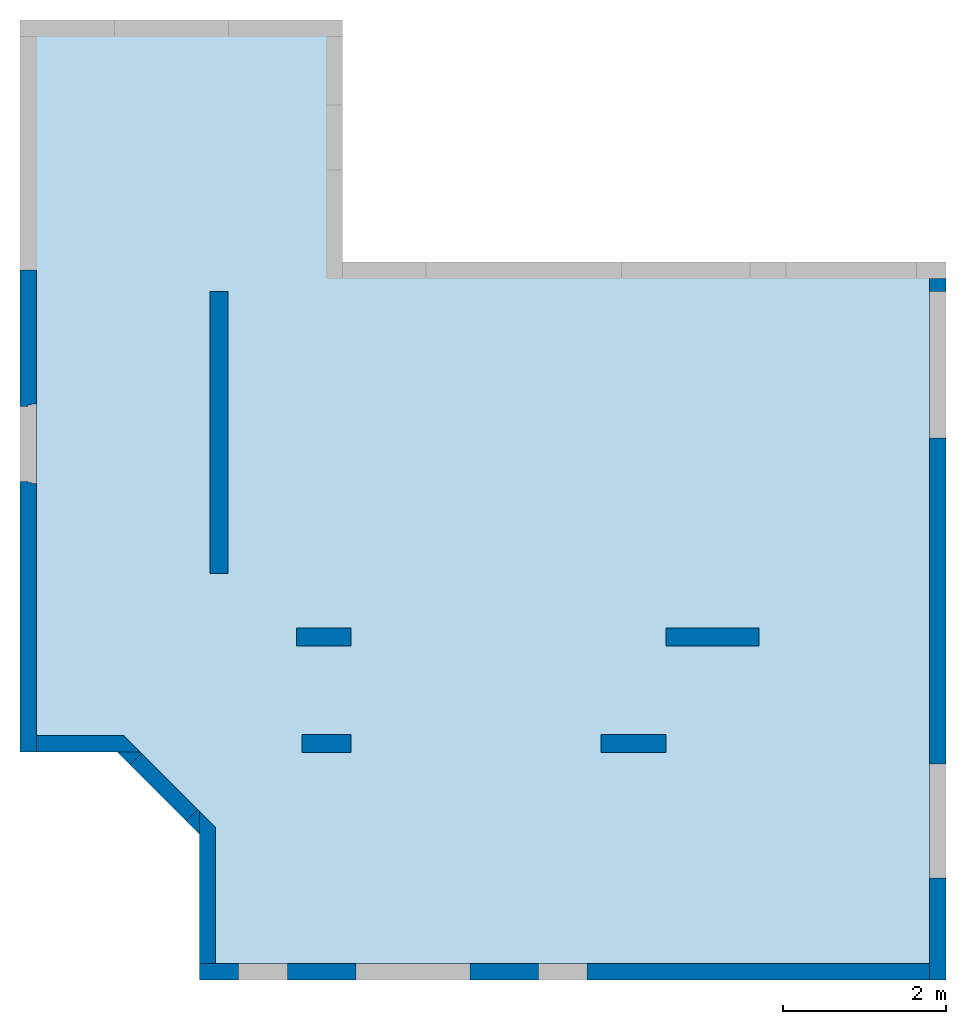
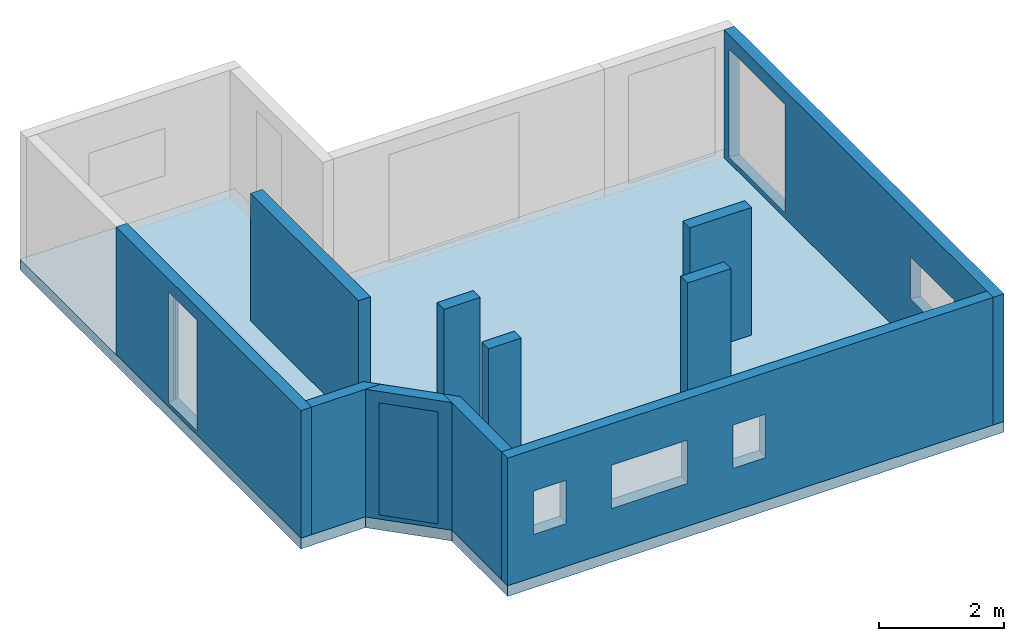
# One storey, part 1 of 3: 12 walls, 1 slab, 8 openings.
"""IFC2X3 building model written with IfcOpenShell, lengths in centimetres."""

from ifc_helpers import new_model, entity, si_unit, converted_unit, derived_unit, direction, frame, frame_2d, origin, place, context, subcontext, project, spatial, polyline, rectangle, outline, extrude, clip, bounded_halfspace, faceted_brep, material, layer, layer_set, layer_usage, type_object, element, save


model = new_model("IFC2X3")

# Units and contexts
model_context = context("Model", 3, precision=0.001, world=origin(), true_north=direction((6.123031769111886e-17, 1.0)))
body_context = subcontext(model_context, "Body", "Model", "MODEL_VIEW")
ifc_project = project(units=[si_unit("LENGTHUNIT", "METRE", prefix="CENTI"), si_unit("AREAUNIT", "SQUARE_METRE"), si_unit("VOLUMEUNIT", "CUBIC_METRE"), converted_unit("PLANEANGLEUNIT", "DEGREE", entity("IfcRatioMeasure", 0.017453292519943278), si_unit("PLANEANGLEUNIT", "RADIAN"), dimensions=[0, 0, 0, 0, 0, 0, 0]), si_unit("MASSUNIT", "GRAM", prefix="KILO"), derived_unit("MASSDENSITYUNIT", [(si_unit("MASSUNIT", "GRAM", prefix="KILO"), 1), (si_unit("LENGTHUNIT", "METRE"), -3)]), derived_unit("MOMENTOFINERTIAUNIT", [(si_unit("LENGTHUNIT", "METRE"), 4)]), si_unit("TIMEUNIT", "SECOND"), si_unit("FREQUENCYUNIT", "HERTZ"), si_unit("THERMODYNAMICTEMPERATUREUNIT", "DEGREE_CELSIUS"), derived_unit("THERMALTRANSMITTANCEUNIT", [(si_unit("MASSUNIT", "GRAM", prefix="KILO"), 1), (si_unit("THERMODYNAMICTEMPERATUREUNIT", "KELVIN"), -1), (si_unit("TIMEUNIT", "SECOND"), -3)]), derived_unit("VOLUMETRICFLOWRATEUNIT", [(si_unit("LENGTHUNIT", "METRE"), 3), (si_unit("TIMEUNIT", "SECOND"), -1)]), derived_unit("MASSFLOWRATEUNIT", [(si_unit("MASSUNIT", "GRAM", prefix="KILO"), 1), (si_unit("TIMEUNIT", "SECOND"), -1)]), derived_unit("ROTATIONALFREQUENCYUNIT", [(si_unit("TIMEUNIT", "SECOND"), -1)]), si_unit("ELECTRICCURRENTUNIT", "AMPERE"), si_unit("ELECTRICVOLTAGEUNIT", "VOLT"), si_unit("POWERUNIT", "WATT"), si_unit("FORCEUNIT", "NEWTON", prefix="KILO"), si_unit("ILLUMINANCEUNIT", "LUX"), si_unit("LUMINOUSFLUXUNIT", "LUMEN"), si_unit("LUMINOUSINTENSITYUNIT", "CANDELA"), derived_unit("USERDEFINED", [(si_unit("MASSUNIT", "GRAM", prefix="KILO"), -1), (si_unit("LENGTHUNIT", "METRE"), -2), (si_unit("TIMEUNIT", "SECOND"), 3), (si_unit("LUMINOUSFLUXUNIT", "LUMEN"), 1)]), derived_unit("SOUNDPOWERUNIT", [(si_unit("MASSUNIT", "GRAM", prefix="KILO"), 1), (si_unit("LENGTHUNIT", "METRE"), 2), (si_unit("TIMEUNIT", "SECOND"), -3)]), derived_unit("SOUNDPRESSUREUNIT", [(si_unit("MASSUNIT", "GRAM", prefix="KILO"), 1), (si_unit("LENGTHUNIT", "METRE"), -1), (si_unit("TIMEUNIT", "SECOND"), -2)]), derived_unit("LINEARVELOCITYUNIT", [(si_unit("LENGTHUNIT", "METRE"), 1), (si_unit("TIMEUNIT", "SECOND"), -1)]), si_unit("PRESSUREUNIT", "PASCAL"), derived_unit("USERDEFINED", [(si_unit("LENGTHUNIT", "METRE"), -2), (si_unit("MASSUNIT", "GRAM", prefix="KILO"), 1), (si_unit("TIMEUNIT", "SECOND"), -2)]), derived_unit("LINEARFORCEUNIT", [(si_unit("MASSUNIT", "GRAM", prefix="KILO"), 1), (si_unit("LENGTHUNIT", "METRE"), 1), (si_unit("TIMEUNIT", "SECOND"), -2), (si_unit("LENGTHUNIT", "METRE"), -1)]), derived_unit("PLANARFORCEUNIT", [(si_unit("MASSUNIT", "GRAM", prefix="KILO"), 1), (si_unit("LENGTHUNIT", "METRE"), 1), (si_unit("TIMEUNIT", "SECOND"), -2), (si_unit("LENGTHUNIT", "METRE"), -2)])], contexts=[model_context])

# Site, building, storey
site_placement = place(None, frame((1412.1772603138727, -701.9923171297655, 0.0)))
site = spatial("IfcSite", under=ifc_project, at=site_placement, Name="Default", CompositionType="ELEMENT")
building_placement = place(site_placement, origin())
building = spatial("IfcBuilding", under=site, at=building_placement, CompositionType="ELEMENT")
storey_placement = place(building_placement, frame((0.0, 0.0, -8.0)))
storey = spatial("IfcBuildingStorey", under=building, at=storey_placement, Name="-0.08_Dessus plancher", CompositionType="ELEMENT", Elevation=-8.000000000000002)

# Slab
ifc_material_1 = material(Name="Maçonnerie - Béton")
ifc_layer_1 = layer(ifc_material_1, 21.0)
ifc_layer_set_1 = layer_set([ifc_layer_1], Name="Sol:Plancher 4+12+5")
ifc_layer_usage_1 = layer_usage(ifc_layer_set_1, "AXIS3", "POSITIVE", 0.0)
slab_type = type_object("IfcSlabType", Name="Sol:Plancher 4+12+5", PredefinedType="FLOOR", material=ifc_layer_set_1)
slab_placement = place(storey_placement, origin())
element("IfcSlab", 1, at=slab_placement, inside=storey, type_object=slab_type, material=ifc_layer_usage_1, Name="Sol:Plancher 4+12+5", ObjectType="Sol:Plancher 4+12+5", PredefinedType="FLOOR", context=body_context, shape_type="SweptSolid", body=[
    extrude(outline(polyline([(-259.64760301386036, -402.53649190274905), (638.3523969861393, -402.53649190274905), (638.3523969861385, -6.536491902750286), (341.3523969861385, -6.5364919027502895), (341.35239698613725, 733.46350809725), (-539.6476030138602, 733.4635080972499), (-539.6476030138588, -182.53649190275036), (-360.8191758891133, -182.5364919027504), (-259.64760301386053, -283.70806477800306), (-259.64760301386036, -402.53649190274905)])), frame((-1385.640768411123, 380.639920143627, 0.0), z_axis=(0.0, 0.0, -1.0), x_axis=(0.0, 1.0, 0.0)), (0.0, 0.0, 1.0), 21.0),
])

# Wall, openings
ifc_layer_2 = layer(ifc_material_1, 20.0)
ifc_layer_set_2 = layer_set([ifc_layer_2], Name="Mur de base:Mur 20")
ifc_layer_usage_2 = layer_usage(ifc_layer_set_2, "AXIS2", "NEGATIVE", 10.0)
wall_type_1 = type_object("IfcWallType", Name="Mur de base:Mur 20", PredefinedType="STANDARD", material=ifc_layer_set_2)
wall_1_placement = place(storey_placement, frame((-662.1772603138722, 701.9923171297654, 0.0), z_axis=(0.0, 0.0, 1.0), x_axis=(0.0, -1.0, 0.0)))
wall_1 = element("IfcWallStandardCase", 2, at=wall_1_placement, inside=storey, type_object=wall_type_1, material=ifc_layer_usage_2, Name="Mur de base:Mur 20", ObjectType="Mur de base:Mur 20", context=body_context, shape_type="Clipping", body=[
    clip(extrude(rectangle(XDim=860.9999999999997, YDim=20.0, at=frame_2d((430.49999999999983, -1.9539925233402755e-14), x_axis=(-1.0, 0.0))), origin(), (0.0, 0.0, 1.0), 249.00000000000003), bounded_halfspace(frame((0.0, -10.0, 249.0), z_axis=(0.0, 0.0, -1.0), x_axis=(1.0, 0.0, 0.0)), True, frame((0.0, -10.0, 249.0)), polyline([(0.0, 0.0), (25633.67999999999, 0.0), (26243.27999999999, 0.0), (26243.279999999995, 609.5999999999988), (0.0, 609.6), (0.0, 0.0)]))),
])
opening_1_placement = place(wall_1_placement, frame((201.0, -68.0, 8.0)))
element("IfcOpeningElement", 3, at=opening_1_placement, cuts=wall_1, Name="Mur de base:Mur 20", ObjectType="Opening", context=body_context, shape_type="Brep", body=[
    faceted_brep([(-185.0, 50.0, 3.500000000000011), (-185.0, 52.0, 3.499999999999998), (-185.0, 52.0, 213.50000000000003), (-185.0, 100.0, 213.50000000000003), (-185.0, 100.0, 0.0), (-185.0, 83.30027558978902, 0.0), (-5.0, 0.0, 3.500000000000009), (-5.0, 42.0, 3.500000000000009), (-5.0, 42.0, 213.50000000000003), (-5.0, 0.0, 213.50000000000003), (-185.0, 0.0, 3.500000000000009), (-185.0, 42.0, 3.500000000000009), (-190.0, 42.0, 3.500000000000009), (-190.0, 47.0, 3.500000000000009), (-186.0, 47.0, 3.500000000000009), (-186.0, 52.0, 3.500000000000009), (-5.0, 50.0, 3.4999999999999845), (-5.0, 52.0, 3.500000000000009), (-4.0, 52.0, 3.500000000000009), (-4.0, 47.0, 3.500000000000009), (0.0, 47.0, 3.500000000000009), (0.0, 42.0, 3.500000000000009), (-185.0, 0.0, 213.50000000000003), (-5.0, 52.0, 213.50000000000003), (-5.0, 100.0, 213.5), (-5.0, 100.0, 0.0), (-5.0, 83.30027558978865, 0.0), (-190.0, 42.0, 218.5), (-190.0, 47.0, 218.5), (0.0, 47.0, 218.5), (-4.0, 47.0, 214.50000000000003), (-186.0, 47.0, 214.50000000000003), (-186.0, 52.0, 214.50000000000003), (-4.0, 52.0, 214.50000000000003), (-185.0, 42.0, 213.5), (0.0, 42.0, 218.49999999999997)], [[[0, 1, 2, 3, 4, 5]], [[6, 7, 8, 9]], [[10, 11, 12, 13, 14, 15, 1, 0, 16, 17, 18, 19, 20, 21, 7, 6]], [[10, 6, 9, 22]], [[3, 2, 23, 24]], [[3, 24, 25, 4]], [[4, 25, 26, 5]], [[5, 26, 16, 0]], [[12, 27, 28, 13]], [[13, 28, 29, 20, 19, 30, 31, 14]], [[14, 31, 32, 15]], [[15, 32, 33, 18, 17, 23, 2, 1]], [[11, 34, 8, 7, 21, 35, 27, 12]], [[27, 35, 29, 28]], [[30, 33, 32, 31]], [[29, 35, 21, 20]], [[19, 18, 33, 30]], [[9, 8, 34, 22]], [[24, 23, 17, 16, 26, 25]], [[22, 34, 11, 10]]]),
])
opening_2_placement = place(wall_1_placement, frame((741.0, -68.0, 81.24478823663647)))
element("IfcOpeningElement", 4, at=opening_2_placement, cuts=wall_1, Name="Mur de base:Mur 20", ObjectType="Opening", context=body_context, shape_type="Brep", body=[
    faceted_brep([(-145.0, 50.0, 6.755211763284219), (-145.0, 52.0, 6.755211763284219), (-145.0, 52.0, 86.75521176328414), (-145.0, 100.0, 86.75521176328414), (-145.0, 100.0, 0.0), (-145.0, 50.0, 5.255211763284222), (-5.0, 0.0, 6.755211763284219), (-5.0, 42.0, 6.755211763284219), (-5.0, 42.0, 86.75521176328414), (-5.0, 0.0, 86.75521176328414), (-145.0, 0.0, 6.755211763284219), (-145.0, 42.0, 6.755211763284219), (-150.0, 42.0, 6.755211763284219), (-150.0, 49.0, 6.755211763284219), (-146.0, 49.0, 6.755211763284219), (-146.0, 52.0, 6.755211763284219), (-5.0, 50.0, 6.755211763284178), (-5.0, 52.0, 6.755211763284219), (-4.0, 52.0, 6.755211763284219), (-4.0, 49.0, 6.755211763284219), (0.0, 49.0, 6.755211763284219), (0.0, 42.0, 6.755211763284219), (-145.0, 0.0, 86.75521176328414), (-5.0, 52.0, 86.75521176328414), (-5.0, 100.0, 86.75521176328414), (-5.0, 100.0, 0.0), (-5.0, 50.0, 5.255211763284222), (-150.0, 42.0, 91.75521176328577), (-150.0, 49.0, 91.75521176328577), (0.0, 49.0, 91.75521176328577), (-4.0, 49.0, 87.75521176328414), (-146.0, 49.0, 87.75521176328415), (-146.0, 52.0, 87.75521176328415), (-4.0, 52.0, 87.75521176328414), (-145.0, 42.0, 86.75521176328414), (0.0, 42.0, 91.75521176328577)], [[[0, 1, 2, 3, 4, 5]], [[6, 7, 8, 9]], [[10, 11, 12, 13, 14, 15, 1, 0, 16, 17, 18, 19, 20, 21, 7, 6]], [[10, 6, 9, 22]], [[3, 2, 23, 24]], [[3, 24, 25, 4]], [[4, 25, 26, 5]], [[5, 26, 16, 0]], [[12, 27, 28, 13]], [[13, 28, 29, 20, 19, 30, 31, 14]], [[14, 31, 32, 15]], [[15, 32, 33, 18, 17, 23, 2, 1]], [[11, 34, 8, 7, 21, 35, 27, 12]], [[27, 35, 29, 28]], [[30, 33, 32, 31]], [[29, 35, 21, 20]], [[19, 18, 33, 30]], [[9, 8, 34, 22]], [[24, 23, 17, 16, 26, 25]], [[22, 34, 11, 10]]]),
])

ifc_layer_usage_3 = layer_usage(ifc_layer_set_2, "AXIS2", "NEGATIVE", 10.0)
wall_2_placement = place(storey_placement, frame((-672.1772603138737, -149.00768287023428, 0.0), z_axis=(0.0, 0.0, 1.0), x_axis=(-1.0, 0.0, 0.0)))
wall_2 = element("IfcWallStandardCase", 5, at=wall_2_placement, inside=storey, type_object=wall_type_1, material=ifc_layer_usage_3, Name="Mur de base:Mur 20", ObjectType="Mur de base:Mur 20", context=body_context, shape_type="Clipping", body=[
    clip(extrude(rectangle(XDim=896.0000000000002, YDim=20.0, at=frame_2d((448.0000000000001, 1.5987211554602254e-14), x_axis=(-1.0, 0.0))), origin(), (0.0, 0.0, 1.0), 249.00000000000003), bounded_halfspace(frame((0.0, -10.0, 249.0), z_axis=(0.0, 0.0, -1.0), x_axis=(0.0, 1.0, 0.0)), True, frame((0.0, -10.0, 249.0)), polyline([(0.0, 0.0), (26700.48, 0.0), (27310.08000000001, 0.0), (27310.080000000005, 609.6), (0.0, 609.6), (0.0, 0.0)]))),
])
opening_3_placement = place(wall_2_placement, frame((485.0, 32.0, 81.24478823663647)))
element("IfcOpeningElement", 6, at=opening_3_placement, cuts=wall_2, Name="Mur de base:Mur 20", ObjectType="Opening", context=body_context, shape_type="Brep", body=[
    faceted_brep([(-65.0, -50.0, 6.755211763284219), (-65.0, -48.0, 6.755211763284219), (-65.0, -48.0, 86.75521176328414), (-65.0, 0.0, 86.75521176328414), (-65.0, 0.0, 0.0), (-65.0, -50.0, 5.255211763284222), (-5.0, -100.0, 6.755211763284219), (-5.0, -58.0, 6.755211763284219), (-5.0, -58.0, 86.75521176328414), (-5.0, -100.0, 86.75521176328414), (-65.0, -100.0, 6.755211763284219), (-65.0, -58.0, 6.755211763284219), (-70.0, -58.0, 6.755211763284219), (-70.0, -53.0, 6.755211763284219), (-66.0, -53.0, 6.755211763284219), (-66.0, -48.0, 6.755211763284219), (-5.0, -50.0, 6.755211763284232), (-5.0, -48.0, 6.755211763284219), (-4.0, -48.0, 6.755211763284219), (-4.0, -53.0, 6.755211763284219), (0.0, -53.0, 6.755211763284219), (0.0, -58.0, 6.755211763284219), (-65.0, -100.0, 86.75521176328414), (-5.0, -48.0, 86.75521176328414), (-5.0, 0.0, 86.75521176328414), (-5.0, 0.0, 0.0), (-5.0, -50.0, 5.255211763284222), (-70.0, -58.0, 91.75521176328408), (-70.0, -53.0, 91.75521176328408), (0.0, -53.0, 91.75521176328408), (-4.0, -53.0, 87.75521176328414), (-66.0, -53.0, 87.75521176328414), (-66.0, -48.0, 87.75521176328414), (-4.0, -48.0, 87.75521176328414), (-65.0, -58.0, 86.75521176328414), (0.0, -58.0, 91.75521176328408)], [[[0, 1, 2, 3, 4, 5]], [[6, 7, 8, 9]], [[10, 11, 12, 13, 14, 15, 1, 0, 16, 17, 18, 19, 20, 21, 7, 6]], [[10, 6, 9, 22]], [[3, 2, 23, 24]], [[3, 24, 25, 4]], [[4, 25, 26, 5]], [[5, 26, 16, 0]], [[12, 27, 28, 13]], [[13, 28, 29, 20, 19, 30, 31, 14]], [[14, 31, 32, 15]], [[15, 32, 33, 18, 17, 23, 2, 1]], [[11, 34, 8, 7, 21, 35, 27, 12]], [[27, 35, 29, 28]], [[30, 33, 32, 31]], [[29, 35, 21, 20]], [[19, 18, 33, 30]], [[9, 8, 34, 22]], [[24, 23, 17, 16, 26, 25]], [[22, 34, 11, 10]]]),
])
opening_4_placement = place(wall_2_placement, frame((853.0, 32.0, 81.24478823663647)))
element("IfcOpeningElement", 7, at=opening_4_placement, cuts=wall_2, Name="Mur de base:Mur 20", ObjectType="Opening", context=body_context, shape_type="Brep", body=[
    faceted_brep([(-65.0, -50.0, 6.755211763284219), (-65.0, -48.0, 6.755211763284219), (-65.0, -48.0, 86.75521176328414), (-65.0, 0.0, 86.75521176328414), (-65.0, 0.0, 0.0), (-65.0, -50.0, 5.255211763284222), (-5.0, -100.0, 6.755211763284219), (-5.0, -58.0, 6.755211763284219), (-5.0, -58.0, 86.75521176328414), (-5.0, -100.0, 86.75521176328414), (-65.0, -100.0, 6.755211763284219), (-65.0, -58.0, 6.755211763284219), (-70.0, -58.0, 6.755211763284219), (-70.0, -53.0, 6.755211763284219), (-66.0, -53.0, 6.755211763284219), (-66.0, -48.0, 6.755211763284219), (-5.0, -50.0, 6.755211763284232), (-5.0, -48.0, 6.755211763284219), (-4.0, -48.0, 6.755211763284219), (-4.0, -53.0, 6.755211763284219), (0.0, -53.0, 6.755211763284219), (0.0, -58.0, 6.755211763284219), (-65.0, -100.0, 86.75521176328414), (-5.0, -48.0, 86.75521176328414), (-5.0, 0.0, 86.75521176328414), (-5.0, 0.0, 0.0), (-5.0, -50.0, 5.255211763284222), (-70.0, -58.0, 91.75521176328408), (-70.0, -53.0, 91.75521176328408), (0.0, -53.0, 91.75521176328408), (-4.0, -53.0, 87.75521176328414), (-66.0, -53.0, 87.75521176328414), (-66.0, -48.0, 87.75521176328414), (-4.0, -48.0, 87.75521176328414), (-65.0, -58.0, 86.75521176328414), (0.0, -58.0, 91.75521176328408)], [[[0, 1, 2, 3, 4, 5]], [[6, 7, 8, 9]], [[10, 11, 12, 13, 14, 15, 1, 0, 16, 17, 18, 19, 20, 21, 7, 6]], [[10, 6, 9, 22]], [[3, 2, 23, 24]], [[3, 24, 25, 4]], [[4, 25, 26, 5]], [[5, 26, 16, 0]], [[12, 27, 28, 13]], [[13, 28, 29, 20, 19, 30, 31, 14]], [[14, 31, 32, 15]], [[15, 32, 33, 18, 17, 23, 2, 1]], [[11, 34, 8, 7, 21, 35, 27, 12]], [[27, 35, 29, 28]], [[30, 33, 32, 31]], [[29, 35, 21, 20]], [[19, 18, 33, 30]], [[9, 8, 34, 22]], [[24, 23, 17, 16, 26, 25]], [[22, 34, 11, 10]]]),
])
opening_5_placement = place(wall_2_placement, frame((709.0, 32.0, 81.24478823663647)))
element("IfcOpeningElement", 8, at=opening_5_placement, cuts=wall_2, Name="Mur de base:Mur 20", ObjectType="Opening", context=body_context, shape_type="Brep", body=[
    faceted_brep([(-145.0, -50.0, 6.755211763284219), (-145.0, -48.0, 6.755211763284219), (-145.0, -48.0, 86.75521176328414), (-145.0, 0.0, 86.75521176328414), (-145.0, 0.0, 0.0), (-145.0, -50.0, 5.255211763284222), (-5.0, -100.0, 6.755211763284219), (-5.0, -58.0, 6.755211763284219), (-5.0, -58.0, 86.75521176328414), (-5.0, -100.0, 86.75521176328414), (-145.0, -100.0, 6.755211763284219), (-145.0, -58.0, 6.755211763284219), (-150.0, -58.0, 6.755211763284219), (-150.0, -51.0, 6.755211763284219), (-146.0, -51.0, 6.755211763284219), (-146.0, -48.0, 6.755211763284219), (-5.0, -50.0, 6.755211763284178), (-5.0, -48.0, 6.755211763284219), (-4.0, -48.0, 6.755211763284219), (-4.0, -51.0, 6.755211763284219), (0.0, -51.0, 6.755211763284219), (0.0, -58.0, 6.755211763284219), (-145.0, -100.0, 86.75521176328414), (-5.0, -48.0, 86.75521176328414), (-5.0, 0.0, 86.75521176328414), (-5.0, 0.0, 0.0), (-5.0, -50.0, 5.255211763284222), (-150.0, -58.0, 91.75521176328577), (-150.0, -51.0, 91.75521176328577), (0.0, -51.0, 91.75521176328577), (-4.0, -51.0, 87.75521176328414), (-146.0, -51.0, 87.75521176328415), (-146.0, -48.0, 87.75521176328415), (-4.0, -48.0, 87.75521176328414), (-145.0, -58.0, 86.75521176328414), (0.0, -58.0, 91.75521176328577)], [[[0, 1, 2, 3, 4, 5]], [[6, 7, 8, 9]], [[10, 11, 12, 13, 14, 15, 1, 0, 16, 17, 18, 19, 20, 21, 7, 6]], [[10, 6, 9, 22]], [[3, 2, 23, 24]], [[3, 24, 25, 4]], [[4, 25, 26, 5]], [[5, 26, 16, 0]], [[12, 27, 28, 13]], [[13, 28, 29, 20, 19, 30, 31, 14]], [[14, 31, 32, 15]], [[15, 32, 33, 18, 17, 23, 2, 1]], [[11, 34, 8, 7, 21, 35, 27, 12]], [[27, 35, 29, 28]], [[30, 33, 32, 31]], [[29, 35, 21, 20]], [[19, 18, 33, 30]], [[9, 8, 34, 22]], [[24, 23, 17, 16, 26, 25]], [[22, 34, 11, 10]]]),
])

# Wall, opening
ifc_layer_usage_4 = layer_usage(ifc_layer_set_2, "AXIS2", "NEGATIVE", 10.0)
wall_3_placement = place(storey_placement, frame((-1558.1772603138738, -139.0076828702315, 0.0), z_axis=(0.0, 0.0, 1.0), x_axis=(0.0, 1.0, 0.0)))
wall_3 = element("IfcWallStandardCase", 9, at=wall_3_placement, inside=storey, type_object=wall_type_1, material=ifc_layer_usage_4, Name="Mur de base:Mur 20", ObjectType="Mur de base:Mur 20", context=body_context, shape_type="Clipping", body=[
    clip(extrude(outline(polyline([(167.11269837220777, -10.0), (187.1126983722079, 10.0), (158.8284271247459, 10.0), (0.0, 10.0), (0.0, -10.0), (16.0, -10.0), (167.11269837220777, -10.0)])), origin(), (0.0, 0.0, 1.0), 249.00000000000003), bounded_halfspace(frame((0.0, -10.0, 249.0), z_axis=(0.0, 0.0, -1.0), x_axis=(-1.0, 0.0, 0.0)), True, frame((0.0, -10.0, 249.0)), polyline([(0.0, 0.0), (5093.595046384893, 0.0), (5703.195046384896, 609.6), (4841.090458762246, 609.6), (0.0, 609.6), (0.0, 0.0)]))),
])
opening_6_placement = place(wall_3_placement, origin())
element("IfcOpeningElement", 10, at=opening_6_placement, cuts=wall_3, Name="Mur de base:Mur 20", ObjectType="Opening", context=body_context, shape_type="SweptSolid", body=[
    extrude(rectangle(XDim=218.8099999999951, YDim=97.62000000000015, at=frame_2d((1.2079226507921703e-13, 0.0), x_axis=(0.0, 1.0))), frame((223.70939812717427, 46.596699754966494, 117.4049999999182), z_axis=(-0.7071067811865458, 0.7071067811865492, 0.0), x_axis=(-0.7071067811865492, -0.7071067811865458, 0.0)), (0.0, 0.0, 1.0), 20.000000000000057),
])

# Wall
ifc_layer_usage_5 = layer_usage(ifc_layer_set_2, "AXIS2", "POSITIVE", -10.0)
wall_4_placement = place(storey_placement, frame((-1768.1772603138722, 130.99231712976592, 0.0)))
element("IfcWallStandardCase", 11, at=wall_4_placement, inside=storey, type_object=wall_type_1, material=ifc_layer_usage_5, Name="Mur de base:Mur 20", ObjectType="Mur de base:Mur 20", context=body_context, shape_type="Clipping", body=[
    clip(extrude(outline(polyline([(127.11269837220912, -10.0), (107.11269837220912, 10.0), (0.0, 10.0), (0.0, -10.0), (98.8284271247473, -10.0), (127.11269837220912, -10.0)])), origin(), (0.0, 0.0, 1.0), 249.00000000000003), bounded_halfspace(frame((0.0, -10.0, 249.0), z_axis=(0.0, 0.0, -1.0), x_axis=(0.0, -1.0, 0.0)), True, frame((0.0, -10.0, 249.0)), polyline([(0.0, 0.0), (3012.2904587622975, 0.0), (3874.3950463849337, 0.0), (3264.7950463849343, 609.6), (0.0, 609.6), (0.0, 0.0)]))),
])

# Wall, opening
ifc_layer_usage_6 = layer_usage(ifc_layer_set_2, "AXIS2", "POSITIVE", -10.0)
wall_5_placement = place(storey_placement, frame((-1662.2777653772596, 128.06338494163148, 0.0), z_axis=(0.0, 0.0, 1.0), x_axis=(0.7071067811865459, -0.7071067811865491, 0.0)))
wall_5 = element("IfcWallStandardCase", 12, at=wall_5_placement, inside=storey, type_object=wall_type_1, material=ifc_layer_usage_6, Name="Mur de base:Mur 20", ObjectType="Mur de base:Mur 20", context=body_context, shape_type="Clipping", body=[
    clip(extrude(outline(polyline([(143.07821048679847, -10.0), (123.07821048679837, 10.0), (20.0, 10.0), (0.0, -10.0), (143.07821048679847, -10.0)])), origin(), (0.0, 0.0, 1.0), 249.00000000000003), bounded_halfspace(frame((0.0, -10.0, 249.0), z_axis=(0.0, 0.0, -1.0), x_axis=(0.7071067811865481, -0.7071067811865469, 0.0)), True, frame((0.0, -10.0, 249.0)), polyline([(0.0, 0.0), (4361.023855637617, 0.0), (3751.4238556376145, 609.6000000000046), (609.6000000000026, 609.6000000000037), (0.0, 0.0)]))),
])
opening_7_placement = place(wall_5_placement, frame((1265.962368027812, 1084.8533921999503, 8.0), z_axis=(0.0, 0.0, 1.0), x_axis=(0.7071067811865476, 0.7071067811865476, 0.0)))
element("IfcOpeningElement", 13, at=opening_7_placement, cuts=wall_5, Name="Mur de base:Mur 20", ObjectType="Opening", context=body_context, shape_type="SweptSolid", body=[
    extrude(rectangle(XDim=218.8099999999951, YDim=97.62000000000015, at=frame_2d((0.0, -1.1723955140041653e-13), x_axis=(1.0, 0.0))), frame((-1726.6791691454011, -37.20349381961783, 109.40499999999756), z_axis=(0.7071067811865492, 0.7071067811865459, 0.0), x_axis=(0.0, 0.0, 1.0)), (0.0, 0.0, 1.0), 304.8),
])

ifc_layer_usage_7 = layer_usage(ifc_layer_set_2, "AXIS2", "POSITIVE", -10.0)
wall_6_placement = place(storey_placement, frame((-1778.177260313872, 711.9923171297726, 0.0), z_axis=(0.0, 0.0, 1.0), x_axis=(0.0, -1.0, 0.0)))
wall_6 = element("IfcWallStandardCase", 14, at=wall_6_placement, inside=storey, type_object=wall_type_1, material=ifc_layer_usage_7, Name="Mur de base:Mur 20", ObjectType="Mur de base:Mur 20", context=body_context, shape_type="Clipping", body=[
    clip(extrude(rectangle(XDim=591.0000000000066, YDim=20.0, at=frame_2d((295.5000000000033, -1.0835776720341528e-13), x_axis=(1.0, 0.0))), origin(), (0.0, 0.0, 1.0), 249.00000000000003), bounded_halfspace(frame((0.0, -10.0, 249.0), z_axis=(0.0, 0.0, -1.0), x_axis=(1.0, 0.0, 0.0)), True, frame((0.0, -10.0, 249.0)), polyline([(0.0, 0.0), (18013.6800000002, 0.0), (18013.6800000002, 609.6), (17404.080000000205, 609.6), (0.0, 609.6), (0.0, 0.0)]))),
])
opening_8_placement = place(wall_6_placement, frame((262.0, -40.0, 8.0), z_axis=(0.0, 0.0, 1.0), x_axis=(0.0, 1.0, 0.0)))
element("IfcOpeningElement", 15, at=opening_8_placement, cuts=wall_6, Name="Mur de base:Mur 20", ObjectType="Opening", context=body_context, shape_type="Brep", body=[
    faceted_brep([(80.0, 3.0, 216.0), (80.0, 95.0, 216.0), (50.0, 95.0, 216.0), (50.0, 3.0, 216.0), (0.0, 3.0, 0.0), (0.0, 95.0, 0.0), (40.0, 95.0, 0.0), (40.0, 96.49999999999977, 0.0), (44.30000000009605, 96.49999999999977, 0.0), (44.30000000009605, 98.0, 0.0), (50.0, 98.0, 0.0), (50.0, 95.0, 0.0), (80.0, 95.0, 0.0), (80.0, 3.0, 0.0), (50.0, 3.0, 0.0), (50.0, 0.0, 0.0), (44.30000000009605, 0.0, 0.0), (44.30000000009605, 1.500000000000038, 0.0), (40.0, 1.500000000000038, 0.0), (40.0, 3.0, 0.0), (0.0, 3.0, 216.0), (0.0, 95.0, 216.0), (40.0, 95.0, 216.0), (44.30000000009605, 0.0, 219.0), (44.30000000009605, 98.0, 219.0), (44.30000000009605, 96.49999999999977, 217.4999999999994), (44.30000000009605, 1.500000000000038, 217.4999999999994), (50.0, 98.0, 219.0), (50.0, 0.0, 219.0), (40.0, 96.49999999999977, 217.4999999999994), (40.0, 3.0, 216.0), (40.0, 1.500000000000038, 217.4999999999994)], [[[0, 1, 2, 3]], [[4, 5, 6, 7, 8, 9, 10, 11, 12, 13, 14, 15, 16, 17, 18, 19]], [[13, 0, 3, 14]], [[20, 21, 5, 4]], [[5, 21, 22, 6]], [[1, 0, 13, 12]], [[16, 23, 24, 9, 8, 25, 26, 17]], [[11, 10, 27, 28, 15, 14, 3, 2]], [[10, 9, 24, 27]], [[24, 23, 28, 27]], [[23, 16, 15, 28]], [[8, 7, 29, 25]], [[7, 6, 22, 30, 19, 18, 31, 29]], [[25, 29, 31, 26]], [[31, 18, 17, 26]], [[1, 12, 11, 2]], [[20, 4, 19, 30]], [[21, 20, 30, 22]]]),
])

# Walls
ifc_layer_usage_8 = layer_usage(ifc_layer_set_2, "AXIS2", "POSITIVE", -10.0)
wall_7_placement = place(storey_placement, frame((-1646.358909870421, 112.14452943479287, 8.0), z_axis=(0.0, 0.0, 1.0), x_axis=(0.7071067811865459, -0.7071067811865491, 0.0)))
element("IfcWallStandardCase", 16, at=wall_7_placement, inside=storey, type_object=wall_type_1, material=ifc_layer_usage_8, Name="Mur de base:Mur 20", ObjectType="Mur de base:Mur 20", context=body_context, shape_type="SweptSolid", body=[
    extrude(rectangle(XDim=97.62000000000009, YDim=20.000000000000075, at=frame_2d((9.592326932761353e-14, 5.595524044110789e-14), x_axis=(1.0, 0.0))), frame((48.81000000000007, 0.0, 0.0)), (0.0, 0.0, 1.0), 218.80999999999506),
])
ifc_material_2 = material(Name="Plâtre")
ifc_layer_3 = layer(ifc_material_2, 1.0)
ifc_material_3 = material(Name="Mur par défaut")
ifc_layer_4 = layer(ifc_material_3, 20.0)
ifc_layer_5 = layer(ifc_material_2, 1.0)
ifc_layer_set_3 = layer_set([ifc_layer_3, ifc_layer_4, ifc_layer_5], Name="Mur de base:Mur refend 22")
ifc_layer_usage_9 = layer_usage(ifc_layer_set_3, "AXIS2", "NEGATIVE", 11.0)
wall_type_2 = type_object("IfcWallType", Name="Mur de base:Mur refend 22", PredefinedType="STANDARD", material=ifc_layer_set_3)
wall_8_placement = place(storey_placement, frame((-995.1772603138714, 261.99231712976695, 0.0)))
element("IfcWallStandardCase", 17, at=wall_8_placement, inside=storey, type_object=wall_type_2, material=ifc_layer_usage_9, Name="Mur de base:Mur refend 22", ObjectType="Mur de base:Mur refend 22", context=body_context, shape_type="Clipping", body=[
    clip(extrude(rectangle(XDim=114.00000000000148, YDim=21.99999999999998, at=frame_2d((57.00000000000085, 0.0), x_axis=(-1.0, 0.0))), origin(), (0.0, 0.0, 1.0), 249.00000000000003), bounded_halfspace(frame((0.0, -11.0, 249.0), z_axis=(0.0, 0.0, -1.0), x_axis=(0.0, -1.0, 0.0)), True, frame((0.0, -11.0, 249.0)), polyline([(0.0, 0.0), (3474.7200000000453, 0.0), (3474.720000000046, 670.5599999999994), (0.0, 670.5599999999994), (0.0, 0.0)]))),
])
ifc_layer_usage_10 = layer_usage(ifc_layer_set_3, "AXIS2", "POSITIVE", -11.0)
wall_9_placement = place(storey_placement, frame((-1382.1772603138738, 261.99231712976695, 0.0), z_axis=(0.0, 0.0, 1.0), x_axis=(-1.0, 0.0, 0.0)))
element("IfcWallStandardCase", 18, at=wall_9_placement, inside=storey, type_object=wall_type_2, material=ifc_layer_usage_10, Name="Mur de base:Mur refend 22", ObjectType="Mur de base:Mur refend 22", context=body_context, shape_type="Clipping", body=[
    clip(extrude(rectangle(XDim=66.99999999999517, YDim=21.99999999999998, at=frame_2d((33.499999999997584, 0.0), x_axis=(-1.0, 0.0))), origin(), (0.0, 0.0, 1.0), 249.00000000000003), bounded_halfspace(frame((0.0, -11.0, 249.0), z_axis=(0.0, 0.0, -1.0), x_axis=(0.0, 1.0, 0.0)), True, frame((0.0, -11.0, 249.0)), polyline([(0.0, 0.0), (2042.1599999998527, 0.0), (2042.1599999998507, 670.5599999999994), (0.0, 670.5599999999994), (0.0, 0.0)]))),
])
ifc_layer_usage_11 = layer_usage(ifc_layer_set_3, "AXIS2", "POSITIVE", -11.0)
wall_10_placement = place(storey_placement, frame((-1544.1772603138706, 339.99231712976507, 0.0), z_axis=(0.0, 0.0, 1.0), x_axis=(0.0, 1.0, 0.0)))
element("IfcWallStandardCase", 19, at=wall_10_placement, inside=storey, type_object=wall_type_2, material=ifc_layer_usage_11, Name="Mur de base:Mur refend 22", ObjectType="Mur de base:Mur refend 22", context=body_context, shape_type="Clipping", body=[
    clip(extrude(rectangle(XDim=346.00000000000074, YDim=21.99999999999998, at=frame_2d((173.0000000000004, 1.270095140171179e-13), x_axis=(-1.0, 0.0))), origin(), (0.0, 0.0, 1.0), 249.00000000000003), bounded_halfspace(frame((0.0, -11.0, 249.0), z_axis=(0.0, 0.0, -1.0), x_axis=(-1.0, 0.0, 0.0)), True, frame((0.0, -11.0, 249.0)), polyline([(0.0, 0.0), (10546.080000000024, 0.0), (10546.080000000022, 670.5600000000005), (0.0, 670.5599999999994), (0.0, 0.0)]))),
])
ifc_layer_usage_12 = layer_usage(ifc_layer_set_3, "AXIS2", "NEGATIVE", 11.0)
wall_11_placement = place(storey_placement, frame((-1442.1772603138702, 130.99231712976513, 0.0)))
element("IfcWallStandardCase", 20, at=wall_11_placement, inside=storey, type_object=wall_type_2, material=ifc_layer_usage_12, Name="Mur de base:Mur refend 22", ObjectType="Mur de base:Mur refend 22", context=body_context, shape_type="Clipping", body=[
    clip(extrude(rectangle(XDim=59.99999999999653, YDim=22.000000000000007, at=frame_2d((29.999999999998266, 1.7763568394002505e-15), x_axis=(-1.0, 0.0))), origin(), (0.0, 0.0, 1.0), 249.00000000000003), bounded_halfspace(frame((0.0, -11.0, 249.0), z_axis=(0.0, 0.0, -1.0), x_axis=(0.0, -1.0, 0.0)), True, frame((0.0, -11.0, 249.0)), polyline([(0.0, 0.0), (1828.7999999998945, 0.0), (1828.7999999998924, 670.5600000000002), (0.0, 670.5600000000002), (0.0, 0.0)]))),
])
ifc_layer_usage_13 = layer_usage(ifc_layer_set_3, "AXIS2", "NEGATIVE", 11.0)
wall_12_placement = place(storey_placement, frame((-1075.1772603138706, 130.99231712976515, 0.0)))
element("IfcWallStandardCase", 21, at=wall_12_placement, inside=storey, type_object=wall_type_2, material=ifc_layer_usage_13, Name="Mur de base:Mur refend 22", ObjectType="Mur de base:Mur refend 22", context=body_context, shape_type="Clipping", body=[
    clip(extrude(rectangle(XDim=79.99999999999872, YDim=22.000000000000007, at=frame_2d((39.99999999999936, -1.1546319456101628e-14), x_axis=(-1.0, 0.0))), origin(), (0.0, 0.0, 1.0), 249.00000000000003), bounded_halfspace(frame((0.0, -11.0, 249.0), z_axis=(0.0, 0.0, -1.0), x_axis=(0.0, -1.0, 0.0)), True, frame((0.0, -11.0, 249.0)), polyline([(0.0, 0.0), (2438.3999999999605, 0.0), (2438.3999999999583, 670.5600000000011), (0.0, 670.5600000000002), (0.0, 0.0)]))),
])

save(model, "model.ifc")
